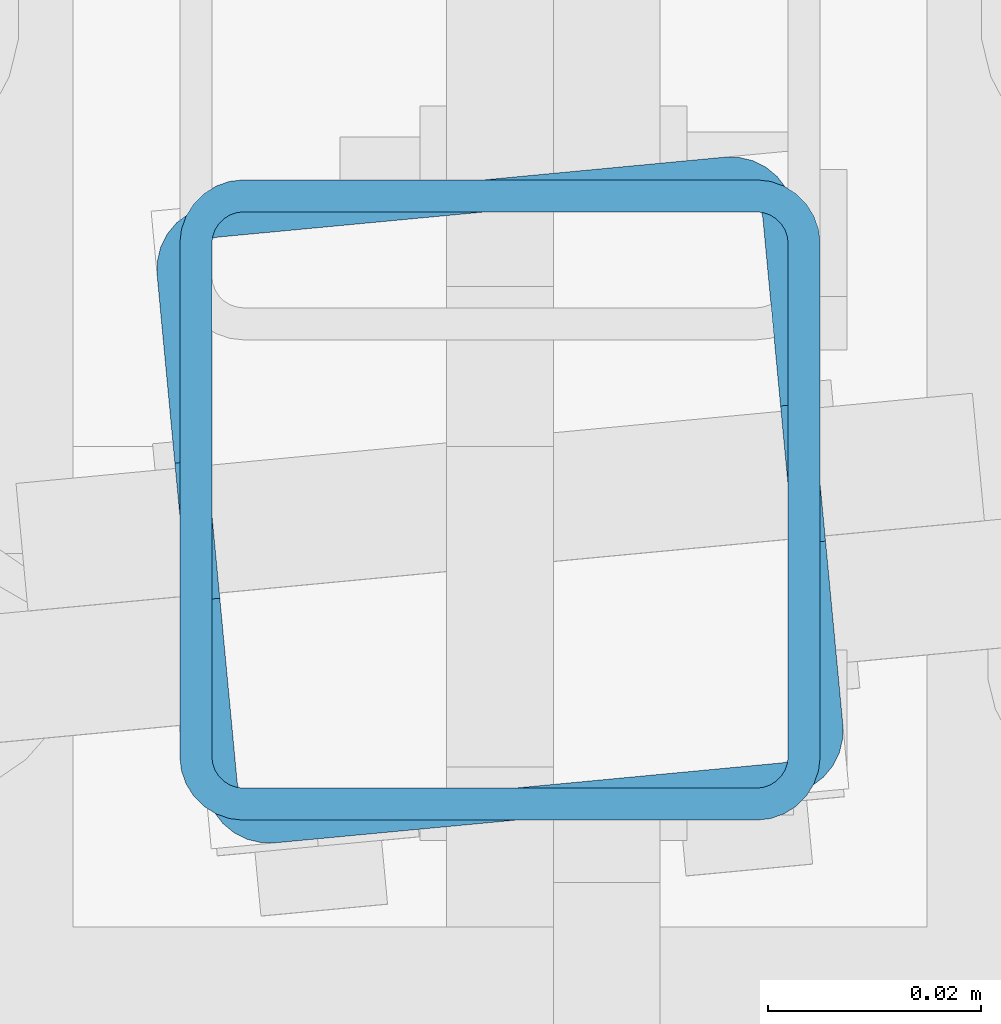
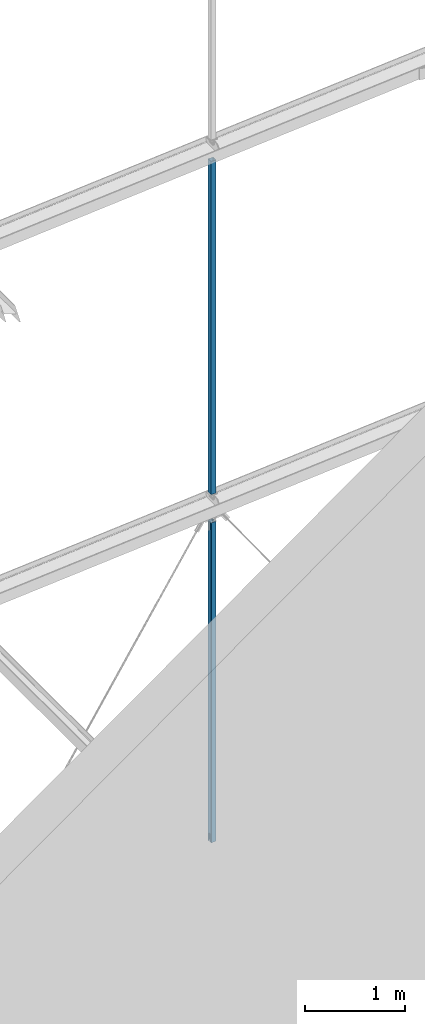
# One storey, part 53 of 271: 2 beams, 2 elements without a shape of their own.
"""IFC2X3 building model written with IfcOpenShell, lengths in millimetres."""

from ifc_helpers import new_model, si_unit, frame, origin_with_axes, origin_2d_with_axis, place, context, subcontext, project, spatial, rectangle, hollow_rectangle, extrude, boolean, clip, halfspace, material, type_object, element, aggregate, save


model = new_model("IFC2X3")

# Units and contexts
model_context = context("Model", 3, precision=1e-05, world=origin_with_axes())
body_context = subcontext(model_context, "Body", "Model", "MODEL_VIEW")
ifc_project = project(units=[si_unit("LENGTHUNIT", "METRE", prefix="MILLI"), si_unit("AREAUNIT", "SQUARE_METRE"), si_unit("VOLUMEUNIT", "CUBIC_METRE"), si_unit("MASSUNIT", "GRAM", prefix="KILO"), si_unit("TIMEUNIT", "SECOND"), si_unit("PLANEANGLEUNIT", "RADIAN"), si_unit("SOLIDANGLEUNIT", "STERADIAN"), si_unit("THERMODYNAMICTEMPERATUREUNIT", "DEGREE_CELSIUS"), si_unit("LUMINOUSINTENSITYUNIT", "LUMEN")], contexts=[model_context])

# Site, building, storey
site_placement = place(None, origin_with_axes())
site = spatial("IfcSite", under=ifc_project, at=site_placement, Name="Undefined", CompositionType="ELEMENT")
building_placement = place(site_placement, origin_with_axes())
building = spatial("IfcBuilding", under=site, at=building_placement, Name="Undefined", CompositionType="ELEMENT")
storey_placement = place(building_placement, origin_with_axes())
storey = spatial("IfcBuildingStorey", under=building, at=storey_placement, Name="Undefined", CompositionType="ELEMENT", Elevation=0.0)

# Assembly, beam
assembly_1_placement = place(storey_placement, origin_with_axes())
assembly_1 = element("IfcElementAssembly", 1, at=assembly_1_placement, inside=storey, AssemblyPlace="NOTDEFINED", PredefinedType="RIGID_FRAME")
ifc_material = material(Name="STEEL/S355JR")
beam_type = type_object("IfcBeamType", Name="SHS60*3", PredefinedType="NOTDEFINED")
beam_1_placement = place(assembly_1_placement, frame((9528.37568709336, 4005.32498425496, 5684.34999990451), z_axis=(0.0, 1.0, 0.0), x_axis=(0.0, 0.0, 1.0)))
beam_1 = element("IfcBeam", 2, at=beam_1_placement, type_object=beam_type, material=ifc_material, Name="TĘŻNIK", ObjectType="SHS60*3", context=body_context, shape_type="Clipping", body=[
    clip(clip(extrude(hollow_rectangle(XDim=60.0, YDim=60.0, WallThickness=3.0, InnerFilletRadius=3.0, OuterFilletRadius=6.0, at=origin_2d_with_axis()), frame((4320.0, 0.0, 9.09494701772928e-13), z_axis=(-1.0, 0.0, 1.38777878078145e-17), x_axis=(0.0, -1.0, 0.0)), (0.0, 0.0, 1.0), 4320.0), halfspace(frame((4188.4000000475, 15.0, 0.0), z_axis=(-1.0, 0.0, 1.38777878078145e-17), x_axis=(0.0, 0.0, 1.0)), True)), halfspace(frame((131.599999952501, 15.0, 0.0), z_axis=(1.0, 0.0, 0.0), x_axis=(0.0, 0.0, -1.0)), True)),
])
aggregate(assembly_1, [beam_1])

assembly_2_placement = place(storey_placement, origin_with_axes())
assembly_2 = element("IfcElementAssembly", 3, at=assembly_2_placement, inside=storey, AssemblyPlace="NOTDEFINED", PredefinedType="RIGID_FRAME")
beam_2_placement = place(assembly_2_placement, frame((9528.37568709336, 4005.32498425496, 1364.34999990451), z_axis=(-0.093934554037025, 0.995578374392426, 0.0), x_axis=(0.0, 0.0, 1.0)))
beam_2 = element("IfcBeam", 4, at=beam_2_placement, type_object=beam_type, material=ifc_material, Name="TĘŻNIK", ObjectType="SHS60*3", context=body_context, shape_type="CSG", body=[
    boolean("DIFFERENCE", boolean("DIFFERENCE", boolean("DIFFERENCE", boolean("DIFFERENCE", extrude(hollow_rectangle(XDim=60.0, YDim=60.0, WallThickness=3.0, InnerFilletRadius=3.0, OuterFilletRadius=6.0, at=origin_2d_with_axis()), frame((4320.0, 0.0, 9.09494701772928e-13), z_axis=(-1.0, 0.0, 1.38777878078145e-17), x_axis=(0.0, -1.0, 0.0)), (0.0, 0.0, 1.0), 4320.0), extrude(rectangle(XDim=13.0, YDim=64.0, at=origin_2d_with_axis()), frame((313.311489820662, -2.5758781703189e-06, -0.214439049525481), z_axis=(-1.0, 0.0, 1.38777878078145e-17), x_axis=(0.0, -1.20121738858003e-05, -0.999999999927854)), (0.0, 0.0, 1.0), 103.0)), extrude(rectangle(XDim=13.0, YDim=64.0, at=origin_2d_with_axis()), frame((4006.68738103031, -2.39669861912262e-06, -0.199525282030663), z_axis=(1.0, 0.0, 0.0), x_axis=(0.0, -1.20121738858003e-05, -0.999999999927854)), (0.0, 0.0, 1.0), 103.0)), halfspace(frame((4107.68738103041, -0.000218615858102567, -18.1995250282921), z_axis=(-1.0, 0.0, 1.38777878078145e-17), x_axis=(0.0, 0.999999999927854, -1.20121738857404e-05)), True)), halfspace(frame((212.311474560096, -0.000218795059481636, -18.2144390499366), z_axis=(1.0, 0.0, 0.0), x_axis=(0.0, -0.999999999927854, 1.20121738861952e-05)), True)),
])
aggregate(assembly_2, [beam_2])

save(model, "model.ifc")
